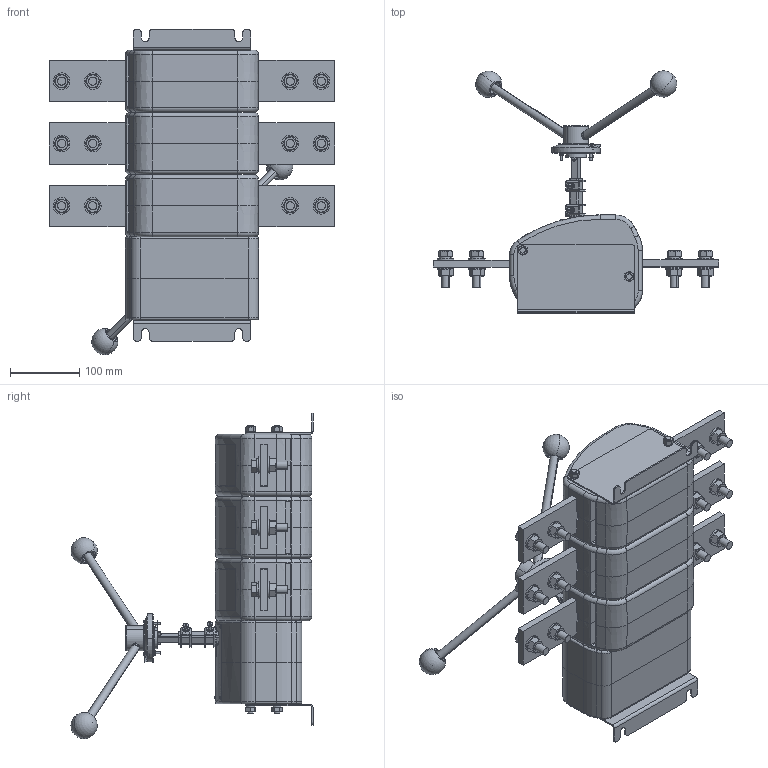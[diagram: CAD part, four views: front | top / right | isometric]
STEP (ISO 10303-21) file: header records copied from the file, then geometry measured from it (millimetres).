
FILE_DESCRIPTION (( 'STEP AP203' ), '1' );
FILE_NAME ('ÂÍÊ-43-31130-32 ÓÕË3 ëåâ..STEP', '2016-11-24T04:22:24', ( 'user' ), ( '' ), 'SwSTEP 2.0', 'SolidWorks 2010', '' );
FILE_SCHEMA (( 'CONFIG_CONTROL_DESIGN' ));
Length unit declared in the file: millimetre
Products named in the file (1): ÂÍÊ-43-31130-32 ÓÕË3 ëåâ.
Bounding box: 411.4 x 349.32 x 469.48 mm (x, y, z)
Surface area: 654068.6 mm2 (no closed solid volume)
Topology: 0 solids, 144 shells, 1039 faces, 3591 edges, 2677 vertices
Faces by surface type: plane 529, cylinder 315, cone 113, torus 60, sphere 20, bspline 2
Entity records: 41746 total; most frequent: CARTESIAN_POINT 11511, DIRECTION 6303, ORIENTED_EDGE 5361, EDGE_CURVE 3581, VERTEX_POINT 2671, AXIS2_PLACEMENT_3D 2275, VECTOR 1753, LINE 1753
